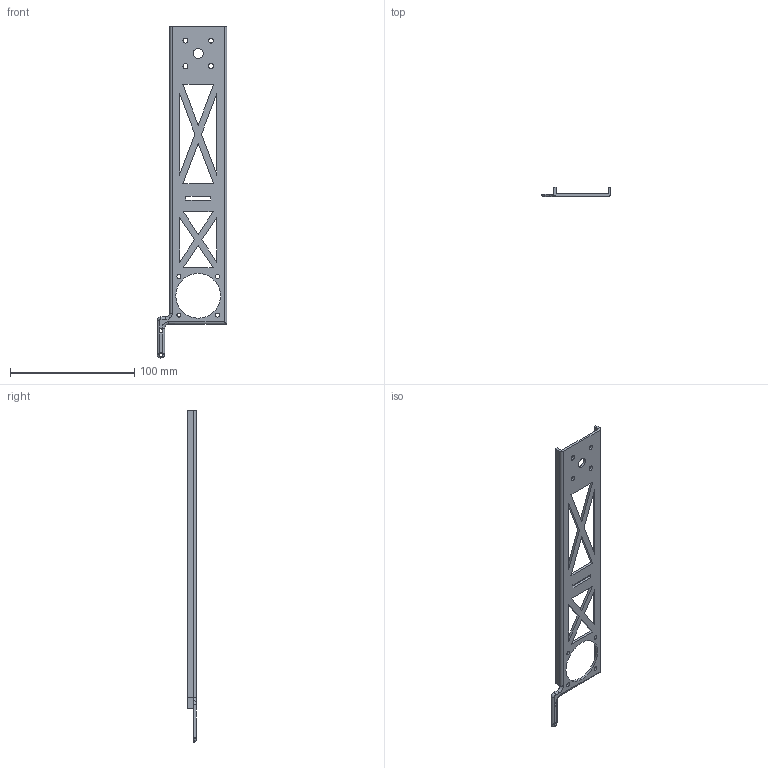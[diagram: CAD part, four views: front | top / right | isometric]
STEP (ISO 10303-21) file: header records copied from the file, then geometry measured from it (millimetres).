
FILE_DESCRIPTION (( 'STEP AP203' ), '1' );
FILE_NAME ('儂迮旋1僇毀耜.STEP', '2025-08-22T12:47:11', ( '' ), ( '' ), 'SwSTEP 2.0', 'SolidWorks 2025', '' );
FILE_SCHEMA (( 'CONFIG_CONTROL_DESIGN' ));
Length unit declared in the file: millimetre
Products named in the file (1): 机械臂1段反侧
Bounding box: 56 x 7 x 267.05 mm (x, y, z)
Volume: 19304.6 mm3; surface area: 22715.9 mm2
Topology: 1 solids, 1 shells, 81 faces, 231 edges, 150 vertices
Faces by surface type: plane 42, cylinder 32, bspline 4, torus 3
Entity records: 2981 total; most frequent: CARTESIAN_POINT 670, ORIENTED_EDGE 462, DIRECTION 455, EDGE_CURVE 231, AXIS2_PLACEMENT_3D 153, VERTEX_POINT 150, LINE 149, VECTOR 149
